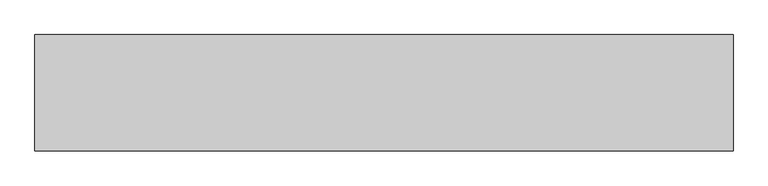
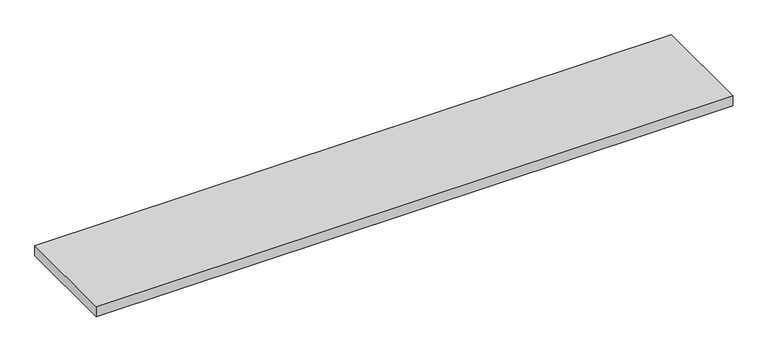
"""IFC4 building model written with IfcOpenShell, lengths in millimetres: light fixture geometry, GENILED_Светильник светодиодный_ЛПО Advanced : ЛПО Advanced 1200х180х20 40Вт Опал."""

import ifcopenshell
import ifcopenshell.guid

model = None  # the IFC model being written
_history = None  # IfcOwnerHistory: only IFC2X3 demands one
_inside = {}  # id of a spatial element -> (the spatial element, [elements in it])
_under = {}  # id of a project, library or spatial element -> (it, [spatial elements below it])
_declared = {}  # id of a project -> (the project, [libraries it declares])
_typed = {}  # id of a type object -> (the type object, [elements of that type])
_made_of = {}  # id of a material, layer set ... -> (it, [elements and type objects made of it])


def new_model(schema):
    """Start an empty IFC model of exactly this schema.

    Asked for "IFC4X3", IfcOpenShell would pick the latest addendum, in which some entities
    have other attributes; the version numbers below select the first issue.
    IFC2X3 requires an IfcOwnerHistory on every rooted entity: one is made here for all.
    """
    global model, _history
    if schema == "IFC4X3":
        model = ifcopenshell.file(schema_version=(4, 3, 0, 0))
    else:
        model = ifcopenshell.file(schema=schema)
    _inside.clear()
    _under.clear()
    _declared.clear()
    _typed.clear()
    _made_of.clear()
    _history = None
    if model.schema == "IFC2X3":
        org = make("IfcOrganization", Name="unknown")
        user = make(
            "IfcPersonAndOrganization",
            ThePerson=make("IfcPerson", FamilyName="unknown"),
            TheOrganization=org,
        )
        app = make(
            "IfcApplication",
            ApplicationDeveloper=org,
            Version="unknown",
            ApplicationFullName="unknown",
            ApplicationIdentifier="unknown",
        )
        _history = make(
            "IfcOwnerHistory",
            OwningUser=user,
            OwningApplication=app,
            ChangeAction="ADDED",
            CreationDate=0,
        )
    return model


def make(cls, **values):
    """One entity of the class cls with the attributes given. An attribute that is None is left unset."""
    return model.create_entity(
        cls, **{name: value for name, value in values.items() if value is not None}
    )


def rooted(cls, **values):
    """An entity with a GlobalId (a new one), such as an element, a storey or a relation."""
    return make(cls, GlobalId=ifcopenshell.guid.new(), OwnerHistory=_history, **values)


def si_unit(unit_type, name, prefix=None):
    """IfcSIUnit, for example si_unit("LENGTHUNIT", "METRE", prefix="MILLI")."""
    return make("IfcSIUnit", UnitType=unit_type, Prefix=prefix, Name=name)


def assignment(units):
    """IfcUnitAssignment: the units of a project."""
    return None if units is None else make("IfcUnitAssignment", Units=units)


def point(xyz):
    """IfcCartesianPoint."""
    return None if xyz is None else make("IfcCartesianPoint", Coordinates=xyz)


def direction(xyz):
    """IfcDirection."""
    return None if xyz is None else make("IfcDirection", DirectionRatios=xyz)


def frame(location, z_axis=None, x_axis=None):
    """IfcAxis2Placement3D, a coordinate frame: its origin and axes. An axis left out is left unset."""
    return make(
        "IfcAxis2Placement3D",
        Location=point(location),
        Axis=direction(z_axis),
        RefDirection=direction(x_axis),
    )


def origin():
    """The frame at (0, 0, 0) with its axes left unset."""
    return frame((0.0, 0.0, 0.0))


def place(relative_to, where):
    """IfcLocalPlacement: puts the frame where relative to a parent placement (None: the world)."""
    return make(
        "IfcLocalPlacement", PlacementRelTo=relative_to, RelativePlacement=where
    )


def context(
    kind, dimensions, precision=None, world=None, true_north=None, identifier=None
):
    """IfcGeometricRepresentationContext, for example the 3D "Model" context."""
    return make(
        "IfcGeometricRepresentationContext",
        ContextIdentifier=identifier,
        ContextType=kind,
        CoordinateSpaceDimension=dimensions,
        Precision=precision,
        WorldCoordinateSystem=world,
        TrueNorth=true_north,
    )


def project(units=None, contexts=None):
    """IfcProject with its units and contexts."""
    return rooted(
        "IfcProject",
        Name="project",
        RepresentationContexts=contexts,
        UnitsInContext=assignment(units),
    )


def spatial(cls, under=None, at=None, **own):
    """A site, building, storey or space (cls), placed at a placement, below another one or the project."""
    s = rooted(cls, ObjectPlacement=at, **own)
    if under is not None:
        _under.setdefault(under.id(), (under, []))[1].append(s)
    return s


def faces_of(points, faces, orient=None, outer=None):
    """IfcFace entities. A face is a list of loops; a loop is a list of indices into points, from 0.

    orient and outer hold one flag for each loop. By default every Orientation is true, the
    first loop of a face is its IfcFaceOuterBound and the others are IfcFaceBound.
    """
    made = []
    for i, loops in enumerate(faces):
        bounds = []
        for j, loop in enumerate(loops):
            is_outer = j == 0 if outer is None else outer[i][j]
            bounds.append(
                make(
                    "IfcFaceOuterBound" if is_outer else "IfcFaceBound",
                    Bound=make("IfcPolyLoop", Polygon=[points[k] for k in loop]),
                    Orientation=True if orient is None else orient[i][j],
                )
            )
        made.append(make("IfcFace", Bounds=bounds))
    return made


def faceted_brep(points, faces, orient=None, outer=None, voids=None):
    """IfcFacetedBrep: a solid bounded by flat faces; with voids (closed shells), ...WithVoids."""
    shared = [point(p) for p in points]
    hull = make("IfcClosedShell", CfsFaces=faces_of(shared, faces, orient, outer))
    if voids is None:
        return make("IfcFacetedBrep", Outer=hull)
    return make(
        "IfcFacetedBrepWithVoids",
        Outer=hull,
        Voids=[
            make(cls, CfsFaces=faces_of(shared, fs, o, b)) for cls, fs, o, b in voids
        ],
    )


def shape(context_of_items, identifier, shape_type, items):
    """IfcShapeRepresentation: the items that make up one representation, for example the "Body"."""
    return make(
        "IfcShapeRepresentation",
        ContextOfItems=context_of_items,
        RepresentationIdentifier=identifier,
        RepresentationType=shape_type,
        Items=items,
    )


def source(mapping_origin, context_of_items, identifier, shape_type, items):
    """IfcRepresentationMap: a shape defined once, which mapped items show again and again."""
    return make(
        "IfcRepresentationMap",
        MappingOrigin=mapping_origin,
        MappedRepresentation=shape(context_of_items, identifier, shape_type, items),
    )


def transform(
    local_origin,
    x_axis=None,
    y_axis=None,
    z_axis=None,
    scale=None,
    scale2=None,
    scale3=None,
    uniform=True,
):
    """IfcCartesianTransformationOperator3D, or its non-uniform kind. x_axis, y_axis, z_axis: its Axis1, 2, 3."""
    if uniform:
        return make(
            "IfcCartesianTransformationOperator3D",
            Axis1=direction(x_axis),
            Axis2=direction(y_axis),
            LocalOrigin=point(local_origin),
            Scale=scale,
            Axis3=direction(z_axis),
        )
    return make(
        "IfcCartesianTransformationOperator3DnonUniform",
        Axis1=direction(x_axis),
        Axis2=direction(y_axis),
        LocalOrigin=point(local_origin),
        Scale=scale,
        Axis3=direction(z_axis),
        Scale2=scale2,
        Scale3=scale3,
    )


def mapped(mapping_source, mapping_target):
    """IfcMappedItem: shows the shape of a source again, moved by a transform."""
    return make(
        "IfcMappedItem", MappingSource=mapping_source, MappingTarget=mapping_target
    )


def made_of(thing, what):
    """Note that an element or type object is made of a material, layer set ...; save() writes the relation."""
    if what is not None:
        _made_of.setdefault(what.id(), (what, []))[1].append(thing)
    return thing


def element(
    cls,
    number,
    at=None,
    inside=None,
    cuts=None,
    type_object=None,
    material=None,
    context=None,
    identifier="Body",
    shape_type=None,
    held_by="IfcProductDefinitionShape",
    body=None,
    shapes=None,
    **own,
):
    """One element of the class cls, such as IfcWall. Its Tag is "e" and its number.

    at: its placement. inside: the storey or other place that contains it. cuts: it is an
    opening in that element (IfcRelVoidsElement). A single representation is given by context,
    identifier, shape_type and body (its items); several are given by shapes. held_by: the class
    of the entity that holds the representations. save() writes the other relations.
    """
    e = rooted(cls, Tag="e%d" % number, ObjectPlacement=at, **own)
    if body is not None:
        shapes = [shape(context, identifier, shape_type, body)]
    if shapes is not None:
        e.Representation = make(held_by, Representations=shapes)
    if inside is not None:
        _inside.setdefault(inside.id(), (inside, []))[1].append(e)
    if cuts is not None:
        rooted(
            "IfcRelVoidsElement", RelatingBuildingElement=cuts, RelatedOpeningElement=e
        )
    if type_object is not None:
        _typed.setdefault(type_object.id(), (type_object, []))[1].append(e)
    return made_of(e, material)


def aggregate(whole, parts):
    """IfcRelAggregates: a whole, such as a stair, and the parts it consists of."""
    return rooted("IfcRelAggregates", RelatingObject=whole, RelatedObjects=parts)


def save(model, path):
    """Write the relations noted so far, then the file.

    IfcRelAggregates (storeys below a building ...), IfcRelContainedInSpatialStructure (elements
    in a storey), IfcRelDefinesByType, IfcRelAssociatesMaterial and IfcRelDeclares: one each for
    every whole, place, type object, material and project.
    """
    for whole, parts in _under.values():
        aggregate(whole, parts)
    for where, things in _inside.values():
        rooted(
            "IfcRelContainedInSpatialStructure",
            RelatedElements=things,
            RelatingStructure=where,
        )
    for kind, things in _typed.values():
        rooted("IfcRelDefinesByType", RelatedObjects=things, RelatingType=kind)
    for what, things in _made_of.values():
        rooted("IfcRelAssociatesMaterial", RelatedObjects=things, RelatingMaterial=what)
    for by, libraries in _declared.values():
        rooted("IfcRelDeclares", RelatingContext=by, RelatedDefinitions=libraries)
    model.write(path)


def light_fixture_50d0131d(model_context):
    return source(origin(), model_context, "Body", "Brep", [
        faceted_brep([(600.0, 100.0, 20.0), (-600.0, 100.0, 20.0), (-600.0, -100.0, 20.0), (600.0, -100.0, 20.0), (590.0, 90.0, 5.0), (590.0, -90.0, 5.0), (-590.0, -90.0, 5.0), (-590.0, 90.0, 5.0), (600.0, 100.0, 0.0), (600.0, -100.0, 0.0), (-600.0, -100.0, 0.0), (-600.0, 100.0, 0.0), (590.0, 90.0, 0.0), (-590.0, 90.0, 0.0), (-590.0, -90.0, 0.0), (590.0, -90.0, 0.0)], [[[0, 1, 2, 3]], [[4, 5, 6, 7]], [[8, 9, 10, 11], [12, 13, 14, 15]], [[1, 0, 8, 11]], [[2, 1, 11, 10]], [[3, 2, 10, 9]], [[0, 3, 9, 8]], [[12, 15, 5, 4]], [[15, 14, 6, 5]], [[14, 13, 7, 6]], [[13, 12, 4, 7]]]),
    ])


if __name__ == "__main__":
    model = new_model("IFC4")
    model_context = context("Model", 3, world=origin())
    ifc_project = project(units=[si_unit("LENGTHUNIT", "METRE", prefix="MILLI")], contexts=[model_context])
    site = spatial("IfcSite", under=ifc_project)
    building = spatial("IfcBuilding", under=site)
    placement = place(None, origin())
    light_fixture_shape = light_fixture_50d0131d(model_context)
    element("IfcLightFixture", 1, ObjectType="GENILED_Светильник светодиодный_ЛПО Advanced : ЛПО Advanced 1200х180х20 40Вт Опал", at=placement, inside=building, context=model_context, shape_type="MappedRepresentation", body=[
        mapped(light_fixture_shape, transform((0.0, 0.0, 0.0), x_axis=(1.0, 0.0, 0.0), y_axis=(0.0, 1.0, 0.0), z_axis=(0.0, 0.0, 1.0))),
    ])
    save(model, "model.ifc")
